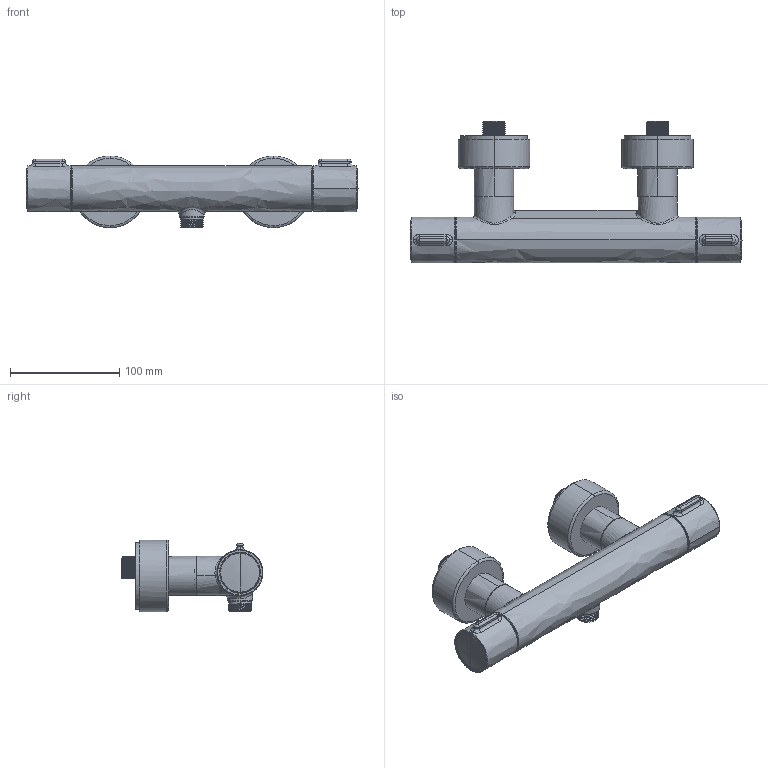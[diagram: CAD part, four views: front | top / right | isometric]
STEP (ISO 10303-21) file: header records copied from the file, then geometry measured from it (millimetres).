
FILE_DESCRIPTION(/* description */ (''),/* implementation_level */ '2;1');
FILE_NAME(/* name */ 'WA4220000C10_WA4220000C46',/* time_stamp */ '2023-01-13T07:59:34+01:00',/* author */ (''),/* organization */ (''),/* preprocessor_version */ 'ST-DEVELOPER v15',/* originating_system */ '',/* authorisation */ '');
FILE_SCHEMA (('AUTOMOTIVE_DESIGN'));
Products named in the file (1): Document
Bounding box: 304.25 x 130 x 65.85 mm (x, y, z)
Volume: 452253.9 mm3; surface area: 126291.5 mm2
Topology: 72 solids, 7824 shells, 8091 faces, 44694 edges, 44510 vertices
Faces by surface type: plane 5223, bspline 2868
Entity records: 537276 total; most frequent: CARTESIAN_POINT 292887, ORIENTED_EDGE 47730, EDGE_CURVE 44690, VERTEX_POINT 44510, B_SPLINE_CURVE_WITH_KNOTS 43906, EDGE_LOOP 8126, ADVANCED_FACE 8091, FACE_OUTER_BOUND 8091
